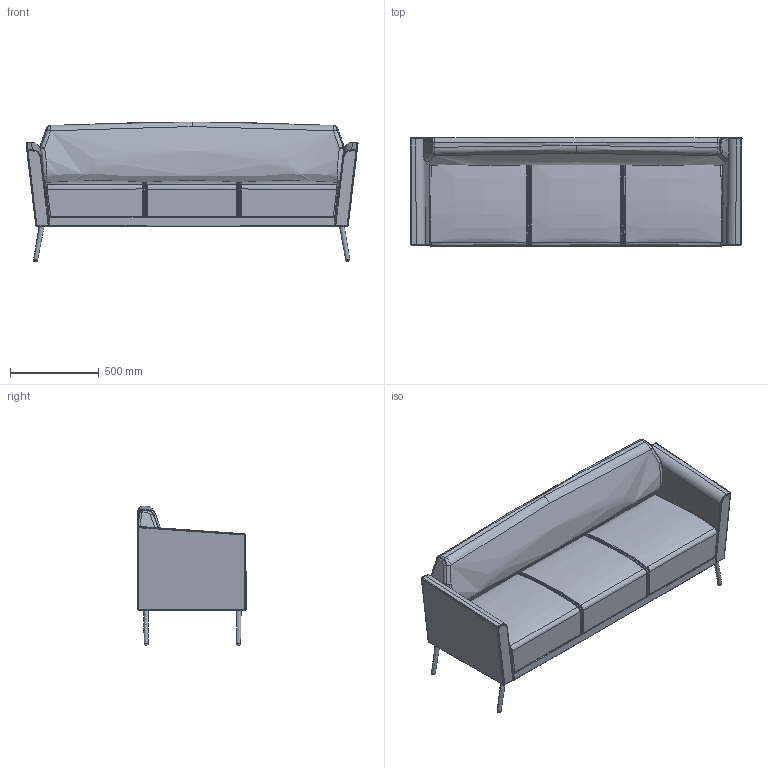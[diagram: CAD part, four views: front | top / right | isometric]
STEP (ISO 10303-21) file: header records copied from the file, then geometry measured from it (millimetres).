
FILE_DESCRIPTION(/* description */ (''),/* implementation_level */ '2;1');
FILE_NAME(/* name */ '3113_Metal.step',/* time_stamp */ '2026-07-28T15:17:55-07:00',/* author */ (''),/* organization */ (''),/* preprocessor_version */ 'ST-DEVELOPER v20.1',/* originating_system */ 'Autodesk Translation Framework v15.8.0.0',/* authorisation */ '');
FILE_SCHEMA (('AUTOMOTIVE_DESIGN { 1 0 10303 214 3 1 1 }'));
Length unit declared in the file: inch
Products named in the file (2): BREEZE Lounge High Back_Allmodels; BREEZE Sofa 12-7-2022 v2
Assembly tree (1 placements, depth 2):
  BREEZE Lounge High Back_Allmodels
    BREEZE Sofa 12-7-2022 v2
Bounding box: 1870.3 x 610.26 x 788.14 mm (x, y, z)
Volume: 360519656.8 mm3; surface area: 10138686.4 mm2
Topology: 27 solids, 27 shells, 629 faces, 1367 edges, 770 vertices
Faces by surface type: bspline 310, cylinder 136, plane 92, torus 47, sphere 36, cone 8
Entity records: 33810 total; most frequent: CARTESIAN_POINT 21861, ORIENTED_EDGE 2690, DIRECTION 1985, EDGE_CURVE 1345, AXIS2_PLACEMENT_3D 857, VERTEX_POINT 770, EDGE_LOOP 637, FACE_OUTER_BOUND 629
